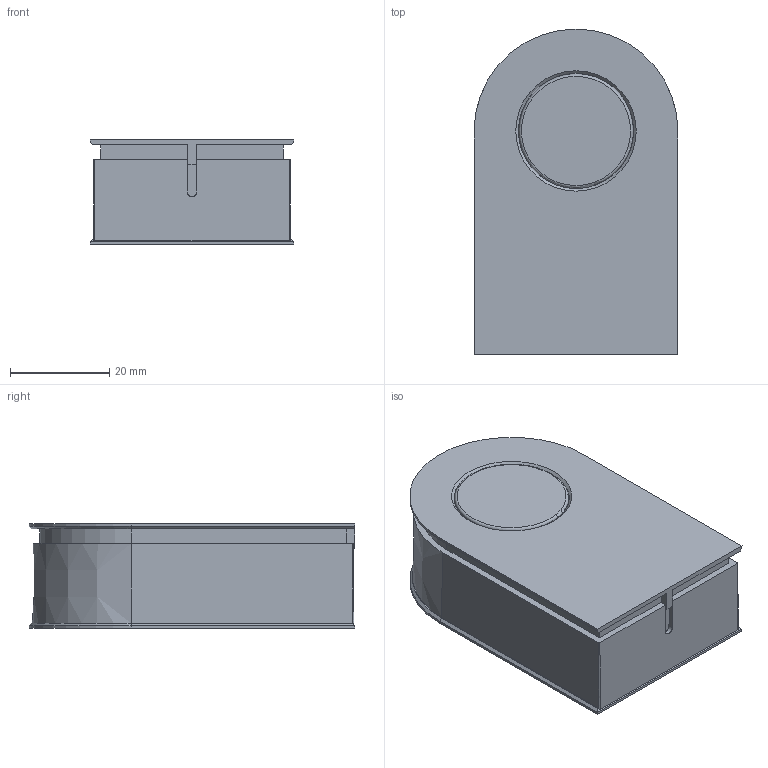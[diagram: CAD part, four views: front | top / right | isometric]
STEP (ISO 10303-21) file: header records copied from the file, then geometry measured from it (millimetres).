
FILE_DESCRIPTION(/* description */ (''),/* implementation_level */ '2;1');
FILE_NAME(/* name */ '5992476.stp',/* time_stamp */ '2019-06-06T08:52:39+02:00',/* author */ (''),/* organization */ (''),/* preprocessor_version */ 'ST-DEVELOPER v16.7',/* originating_system */ 'SIEMENS PLM Software NX 12.0',/* authorisation */ '');
FILE_SCHEMA (('AUTOMOTIVE_DESIGN { 1 0 10303 214 3 1 1 1 }'));
Length unit declared in the file: millimetre
Products named in the file (1): p.sc26A010D1nuk0
Bounding box: 41.01 x 65.51 x 21 mm (x, y, z)
Volume: 49441.2 mm3; surface area: 10109.4 mm2
Topology: 1 solids, 2 shells, 56 faces, 140 edges, 92 vertices
Faces by surface type: plane 38, cone 9, cylinder 5, torus 2, bspline 2
Full cylindrical faces by diameter (mm): 23.2 x2
Entity records: 1664 total; most frequent: CARTESIAN_POINT 351, DIRECTION 258, ORIENTED_EDGE 254, EDGE_CURVE 127, LINE 94, VECTOR 94, VERTEX_POINT 87, AXIS2_PLACEMENT_3D 82
